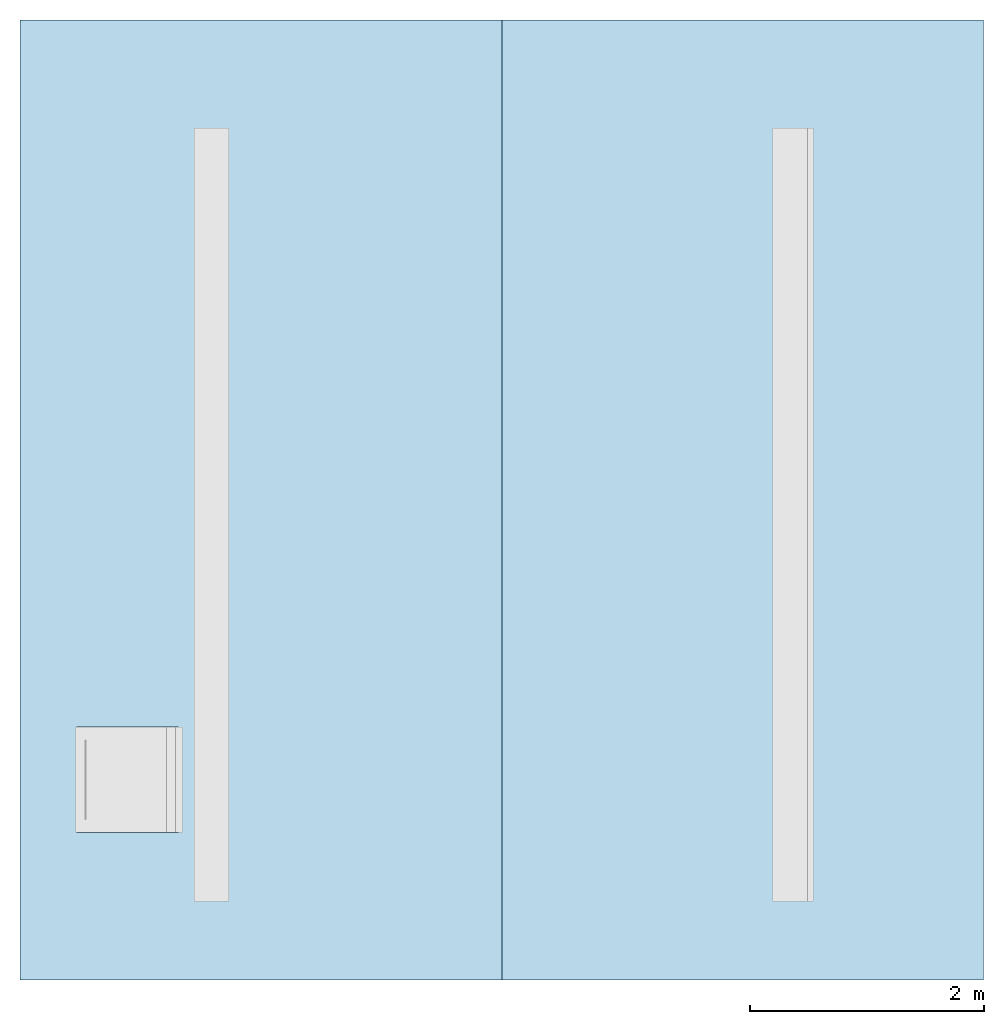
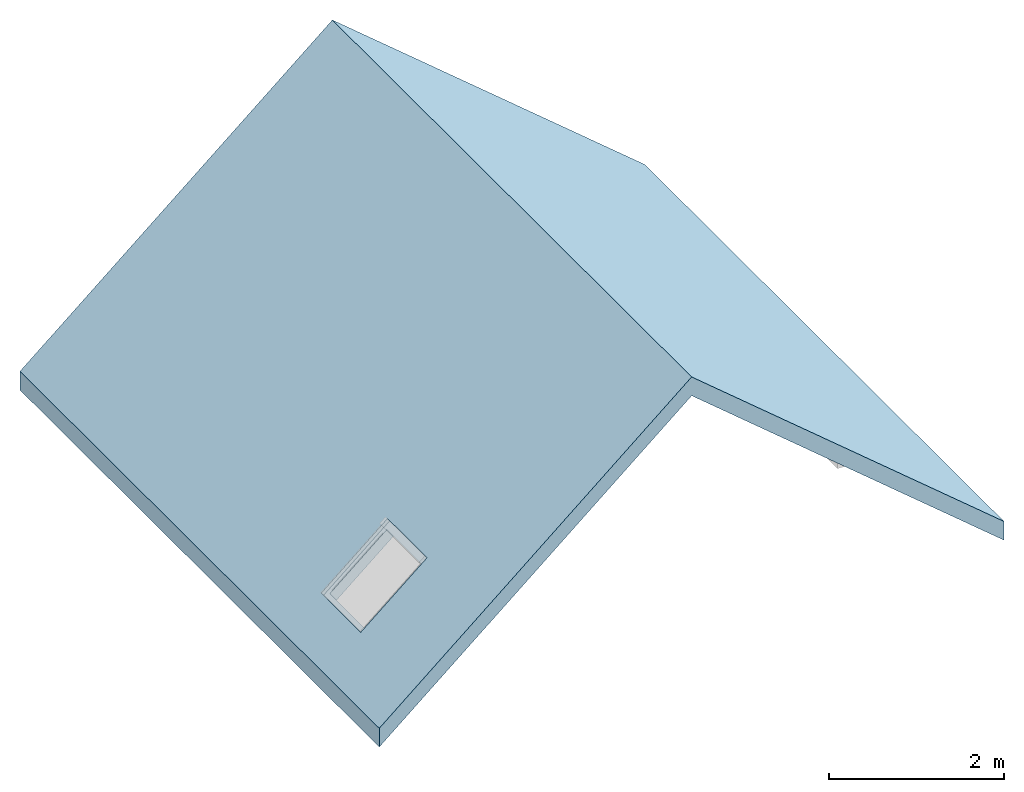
# One storey, part 2 of 2: 1 roof.
"""IFC2X3 building model written with IfcOpenShell, lengths in metres."""

from ifc_helpers import new_model, entity, si_unit, converted_unit, derived_unit, direction, frame, origin, place, context, subcontext, project, spatial, faceted_brep, material, layer, layer_set, element, save


model = new_model("IFC2X3")

# Units and contexts
model_context = context("Model", 3, precision=1e-05, world=origin(), true_north=direction((6.12303176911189e-17, 1.0)))
body_context = subcontext(model_context, "Body", "Model", "MODEL_VIEW")
ifc_project = project(units=[si_unit("LENGTHUNIT", "METRE"), si_unit("AREAUNIT", "SQUARE_METRE"), si_unit("VOLUMEUNIT", "CUBIC_METRE"), converted_unit("PLANEANGLEUNIT", "DEGREE", entity("IfcRatioMeasure", 0.0174532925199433), si_unit("PLANEANGLEUNIT", "RADIAN"), dimensions=[0, 0, 0, 0, 0, 0, 0]), si_unit("MASSUNIT", "GRAM", prefix="KILO"), derived_unit("MASSDENSITYUNIT", [(si_unit("MASSUNIT", "GRAM", prefix="KILO"), 1), (si_unit("LENGTHUNIT", "METRE"), -3)]), derived_unit("MOMENTOFINERTIAUNIT", [(si_unit("LENGTHUNIT", "METRE"), 4)]), si_unit("TIMEUNIT", "SECOND"), si_unit("FREQUENCYUNIT", "HERTZ"), si_unit("THERMODYNAMICTEMPERATUREUNIT", "DEGREE_CELSIUS"), derived_unit("THERMALTRANSMITTANCEUNIT", [(si_unit("MASSUNIT", "GRAM", prefix="KILO"), 1), (si_unit("THERMODYNAMICTEMPERATUREUNIT", "KELVIN"), -1), (si_unit("TIMEUNIT", "SECOND"), -3)]), derived_unit("VOLUMETRICFLOWRATEUNIT", [(si_unit("LENGTHUNIT", "METRE"), 3), (si_unit("TIMEUNIT", "SECOND"), -1)]), si_unit("ELECTRICCURRENTUNIT", "AMPERE"), si_unit("ELECTRICVOLTAGEUNIT", "VOLT"), si_unit("POWERUNIT", "WATT"), si_unit("FORCEUNIT", "NEWTON", prefix="KILO"), si_unit("ILLUMINANCEUNIT", "LUX"), si_unit("LUMINOUSFLUXUNIT", "LUMEN"), si_unit("LUMINOUSINTENSITYUNIT", "CANDELA"), derived_unit("USERDEFINED", [(si_unit("MASSUNIT", "GRAM", prefix="KILO"), -1), (si_unit("LENGTHUNIT", "METRE"), -2), (si_unit("TIMEUNIT", "SECOND"), 3), (si_unit("LUMINOUSFLUXUNIT", "LUMEN"), 1)]), derived_unit("LINEARVELOCITYUNIT", [(si_unit("LENGTHUNIT", "METRE"), 1), (si_unit("TIMEUNIT", "SECOND"), -1)]), si_unit("PRESSUREUNIT", "PASCAL"), derived_unit("USERDEFINED", [(si_unit("LENGTHUNIT", "METRE"), -2), (si_unit("MASSUNIT", "GRAM", prefix="KILO"), 1), (si_unit("TIMEUNIT", "SECOND"), -2)]), derived_unit("LINEARFORCEUNIT", [(si_unit("MASSUNIT", "GRAM", prefix="KILO"), 1), (si_unit("LENGTHUNIT", "METRE"), 1), (si_unit("TIMEUNIT", "SECOND"), -2), (si_unit("LENGTHUNIT", "METRE"), -1)]), derived_unit("PLANARFORCEUNIT", [(si_unit("MASSUNIT", "GRAM", prefix="KILO"), 1), (si_unit("LENGTHUNIT", "METRE"), 1), (si_unit("TIMEUNIT", "SECOND"), -2), (si_unit("LENGTHUNIT", "METRE"), -2)])], contexts=[model_context])

# Site, building, storey
site_placement = place(None, origin())
site = spatial("IfcSite", under=ifc_project, at=site_placement, Name="Surface", CompositionType="ELEMENT")
building_placement = place(site_placement, origin())
building = spatial("IfcBuilding", under=site, at=building_placement, CompositionType="ELEMENT")
storey_placement = place(building_placement, frame((0.0, 0.0, 3.91000000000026)))
storey = spatial("IfcBuildingStorey", under=building, at=storey_placement, Name="03 Goutière", CompositionType="ELEMENT", Elevation=3.91000000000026)

# Roof
ifc_material = material(Name="Toit par défaut")
ifc_layer = layer(ifc_material, 0.2)
ifc_layer_set = layer_set([ifc_layer], Name="Toit de base:Toit - 200 mm")
roof_placement = place(storey_placement, frame((5.46656158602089, -3.99596095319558, 0.0899999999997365)))
element("IfcRoof", 1, at=roof_placement, inside=storey, material=ifc_layer_set, Name="Toit de base:Toit - 200 mm", ObjectType="Toit de base:Toit - 200 mm", ShapeType="NOTDEFINED", context=body_context, shape_type="Brep", body=[
    faceted_brep([(0.0, 8.19900000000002, 0.0), (4.11500000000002, 8.19900000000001, 3.4528949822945), (4.11499999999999, 0.0, 3.45289498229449), (0.0, 0.0, 0.0), (1.47342824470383, 2.09929450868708, 1.23635309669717), (0.457339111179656, 2.09929450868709, 0.383753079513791), (0.457339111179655, 1.31929450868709, 0.383753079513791), (1.47342824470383, 1.31929450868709, 1.23635309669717), (8.23000000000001, 8.199, 0.0), (8.22999999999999, 0.0, 0.0), (0.0, 8.19900000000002, 0.261081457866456), (0.0, 0.0, 0.261081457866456), (4.11499999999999, 0.0, 3.71397644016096), (4.11500000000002, 8.19900000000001, 3.71397644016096), (1.35513377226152, 2.1592945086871, 1.39817370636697), (1.35513377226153, 1.2592945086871, 1.39817370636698), (0.481843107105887, 1.2592945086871, 0.665395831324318), (0.481843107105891, 2.1592945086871, 0.665395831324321), (8.22999999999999, 0.0, 0.261081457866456), (8.23000000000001, 8.199, 0.261081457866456), (1.31066870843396, 2.09929450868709, 1.29559272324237), (0.559945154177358, 2.09929450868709, 0.665660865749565), (0.559945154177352, 1.31929450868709, 0.665660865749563), (1.31066870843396, 1.31929450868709, 1.29559272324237), (1.38727315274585, 2.1592945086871, 1.35987148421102), (0.513982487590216, 2.1592945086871, 0.627093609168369), (0.513982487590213, 1.2592945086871, 0.627093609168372), (1.38727315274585, 1.2592945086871, 1.35987148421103)], [[[0, 1, 2, 3], [4, 5, 6, 7]], [[2, 1, 8, 9]], [[10, 11, 12, 13], [14, 15, 16, 17]], [[13, 12, 18, 19]], [[11, 10, 0, 3]], [[19, 18, 9, 8]], [[1, 0, 10, 13, 19, 8]], [[3, 2, 9, 18, 12, 11]], [[4, 20, 21, 5]], [[6, 22, 23, 7]], [[21, 20, 23, 22], [24, 25, 26, 27]], [[24, 27, 15, 14]], [[27, 26, 16, 15]], [[26, 25, 17, 16]], [[25, 24, 14, 17]], [[20, 4, 7, 23]], [[5, 21, 22, 6]]], outer=[[True, False], [True], [True, False], [True], [True], [True], [True], [True], [True], [True], [False, True], [True], [True], [True], [True], [True], [True]]),
])

save(model, "model.ifc")
